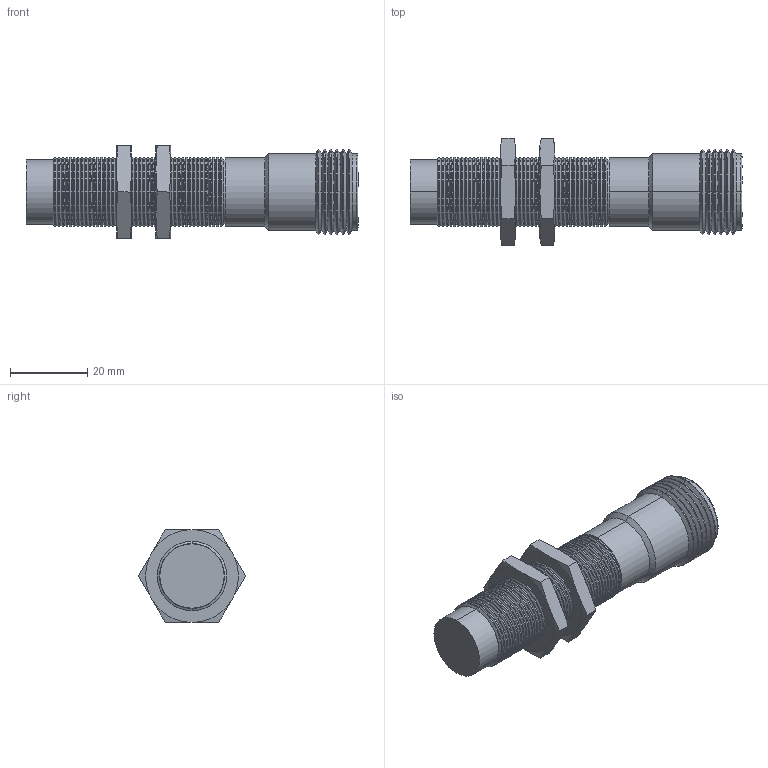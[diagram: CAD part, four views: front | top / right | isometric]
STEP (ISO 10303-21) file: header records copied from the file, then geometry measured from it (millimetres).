
FILE_DESCRIPTION (( 'STEP AP203' ), '1' );
FILE_NAME ('90-XXXX-019.STEP', '2015-10-28T13:15:33', ( 'Sam' ), ( 'Spade' ), 'SwSTEP 2.0', 'SolidWorks 2002296', '' );
FILE_SCHEMA (( 'CONFIG_CONTROL_DESIGN' ));
Length unit declared in the file: inch
Products named in the file (10): 90-XXXX-019; Imported185; Imported184; Imported183; Imported190; Imported189; Imported188; Imported187; Imported186; Imported182
Assembly tree (9 placements, depth 2):
  90-XXXX-019
    Imported187
    Imported184
    Imported189
    Imported188
    Imported190
    Imported186
    Imported182
    Imported185
    Imported183
Bounding box: 85.86 x 27.69 x 23.98 mm (x, y, z)
Volume: 22954.7 mm3; surface area: 13125.5 mm2
Topology: 9 solids, 9 shells, 538 faces, 1103 edges, 585 vertices
Faces by surface type: cone 273, cylinder 218, plane 39, bspline 8
Entity records: 15026 total; most frequent: DIRECTION 2688, CARTESIAN_POINT 2532, ORIENTED_EDGE 2194, AXIS2_PLACEMENT_3D 1101, EDGE_CURVE 1097, VERTEX_POINT 585, CIRCLE 559, EDGE_LOOP 550
